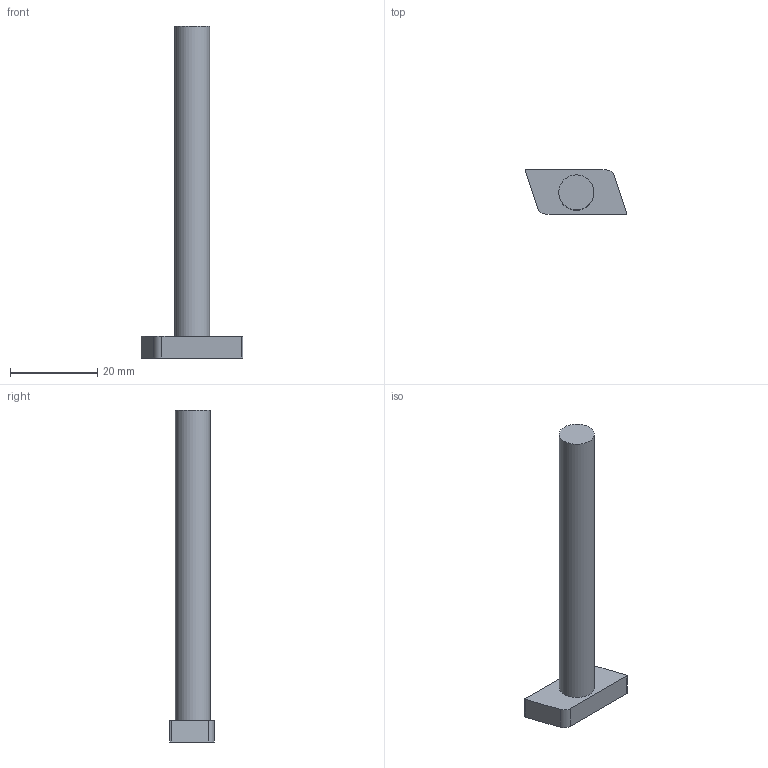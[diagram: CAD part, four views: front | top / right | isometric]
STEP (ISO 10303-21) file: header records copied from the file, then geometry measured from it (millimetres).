
FILE_DESCRIPTION((''),'2;1');
FILE_NAME('C:\Vault Klient\Projekt\Step\100-6095.stp','2009-12-10T12:51:42',('Mathias'),(''),'Autodesk Inventor 2010','Autodesk Inventor 2010','');
FILE_SCHEMA(('CONFIG_CONTROL_DESIGN'));
Length unit declared in the file: millimetre
Products named in the file (1): 100-6095
Bounding box: 23.21 x 10.11 x 76 mm (x, y, z)
Volume: 4575.3 mm3; surface area: 2487.9 mm2
Topology: 1 solids, 1 shells, 12 faces, 27 edges, 18 vertices
Faces by surface type: plane 7, cylinder 5
Full cylindrical faces by diameter (mm): 8 x1
Entity records: 362 total; most frequent: DIRECTION 62, CARTESIAN_POINT 57, ORIENTED_EDGE 52, EDGE_CURVE 26, AXIS2_PLACEMENT_3D 23, VERTEX_POINT 18, VECTOR 16, LINE 16
